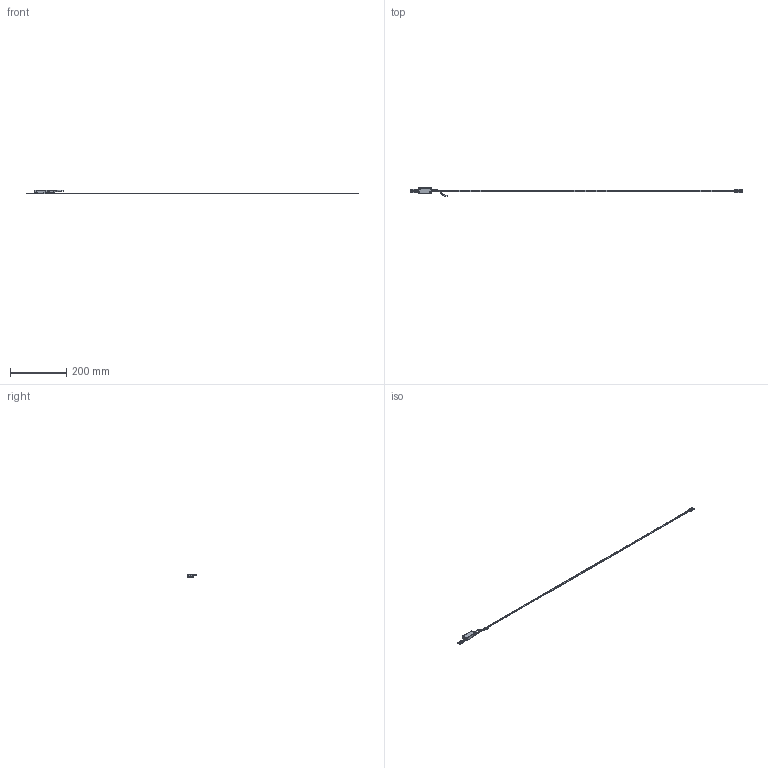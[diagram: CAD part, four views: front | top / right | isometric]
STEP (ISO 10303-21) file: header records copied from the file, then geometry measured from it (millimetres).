
FILE_DESCRIPTION(('Creo Elements/Direct Modeling STEP Export'),'2;1');
FILE_NAME('EXA-1070.stp','2017-01-11T15:21:24',(''),(''),'Creo Elements/Direct Modeling STEP processor for AP214 (Solid Model)','Creo Elements/Direct Modeling 18.1H 24-Oct-2015 (C) Parametric Technology GmbH','');
FILE_SCHEMA(('AUTOMOTIVE_DESIGN { 1 0 10303 214 1 1 1 1 }'));
Length unit declared in the file: millimetre
Products named in the file (3): CABEZA_REGLA_EXPOSED; FLEJE_REGLA_EXPOSED_ADHESIVADA_1070
Assembly tree (1 placements, depth 2):
  CABEZA_REGLA_EXPOSED
    CABEZA_REGLA_EXPOSED
  FLEJE_REGLA_EXPOSED_ADHESIVADA_1070
Bounding box: 1176 x 29.32 x 13.16 mm (x, y, z)
Volume: 14944.4 mm3; surface area: 21347.7 mm2
Topology: 2 solids, 4 shells, 1353 faces, 3846 edges, 2525 vertices
Faces by surface type: plane 1220, cylinder 93, cone 32, torus 8
Entity records: 41864 total; most frequent: ORIENTED_EDGE 7684, CARTESIAN_POINT 7262, DIRECTION 6075, EDGE_CURVE 3842, VECTOR 3379, LINE 3379, VERTEX_POINT 2525, EDGE_LOOP 1393
